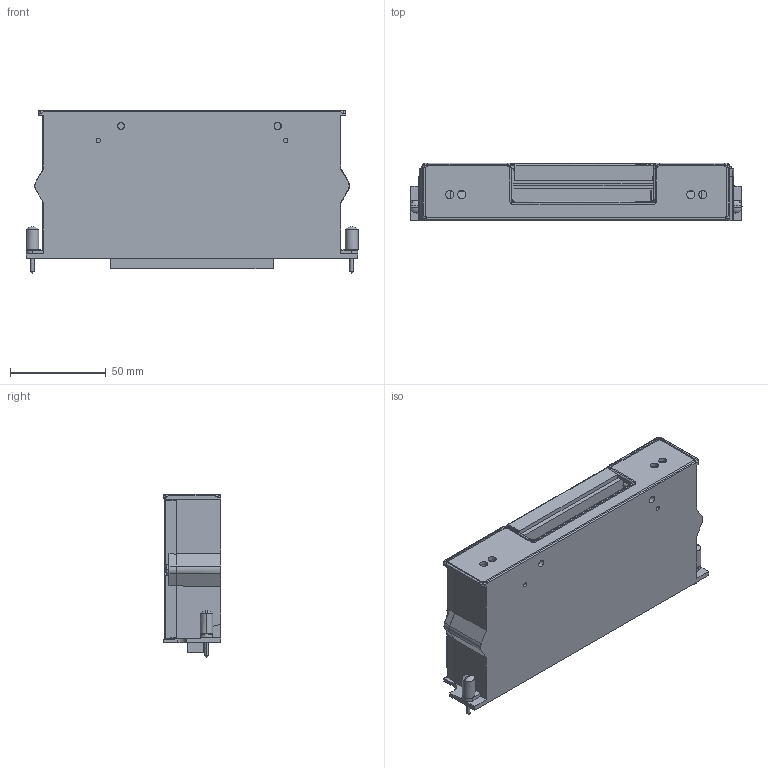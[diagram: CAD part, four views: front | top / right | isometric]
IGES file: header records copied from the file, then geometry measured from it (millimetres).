
Start section:  PTC IGES file: cu_tb-1332.igs
Global section: file name: cu_tb-1332.igs; native system: Pro/ENGINEER by Parametric Technology Corporation; preprocessor: 2010230; author: jjorden; organization: Unknown; date: 20110815.140125; units: inch
Bounding box: 173.53 x 30.18 x 85.34 mm (x, y, z)
Surface area: 80307.5 mm2 (no closed solid volume)
Topology: 0 solids, 0 shells, 524 faces, 2748 edges, 2700 vertices
Faces by surface type: bspline 320, revolution 204
